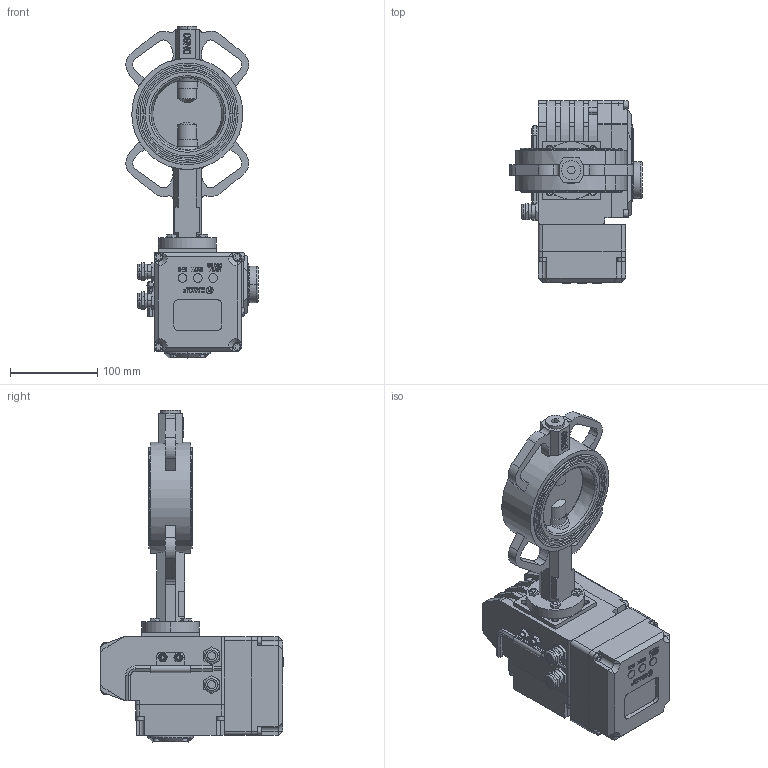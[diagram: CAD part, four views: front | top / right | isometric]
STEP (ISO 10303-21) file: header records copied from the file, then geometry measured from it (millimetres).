
FILE_DESCRIPTION((''),'2;1');
FILE_NAME('VBS_EAR_A_ASM','2025-02-22T',('AMD'),(''),'PRO/ENGINEER BY PARAMETRIC TECHNOLOGY CORPORATION, 2008020','PRO/ENGINEER BY PARAMETRIC TECHNOLOGY CORPORATION, 2008020','');
FILE_SCHEMA(('CONFIG_CONTROL_DESIGN'));
Length unit declared in the file: millimetre
Products named in the file (28): KORPUS; REZ; DISK; SHTIR_1; ZAGLUSHKA; O-RING; SHTIR_2; SHAIBA_RAZREZ; SHAIBA; KOLCO_22_GOST13943; VTULKA; MANZET_REZ; SB_ASM; B-7798-M6-20; DET_1; V-11738-M5; V-11738-M4; DET_2; KREPLENIE; KLUCH; DET_3; G-5915-M6; ELECTROPRIVOD_ASM; DET_4; DET_5; DISPLAY_ASM; ELECTROPRIVOD_WITH_DISPLAY_ASM; VBS_EAR_A_ASM
Assembly tree (51 placements, depth 4):
  VBS_EAR_A_ASM
    SB_ASM
      KORPUS
      REZ
      DISK
      SHTIR_1
      ZAGLUSHKA
      O-RING  x2
      SHTIR_2
      SHAIBA_RAZREZ
      SHAIBA  x2
      KOLCO_22_GOST13943
      VTULKA  x5
      MANZET_REZ
    B-7798-M6-20  x4
    ELECTROPRIVOD_WITH_DISPLAY_ASM
      ELECTROPRIVOD_ASM
        DET_1
        V-11738-M5  x8
        V-11738-M4  x4
        DET_2
        KREPLENIE
        KLUCH
        DET_3
        G-5915-M6  x2
      DISPLAY_ASM
        DET_4
        DET_5
        V-11738-M5  x4
Bounding box: 151.28 x 209 x 379.5 mm (x, y, z)
Volume: 2661816.8 mm3; surface area: 412869.3 mm2
Topology: 47 solids, 88 shells, 2740 faces, 7239 edges, 4777 vertices
Faces by surface type: plane 1801, cylinder 499, extrusion 300, cone 102, torus 38
Entity records: 76750 total; most frequent: CARTESIAN_POINT 16153, ORIENTED_EDGE 12774, DIRECTION 11465, EDGE_CURVE 6435, VECTOR 5095, LINE 4795, VERTEX_POINT 4263, AXIS2_PLACEMENT_3D 3185
